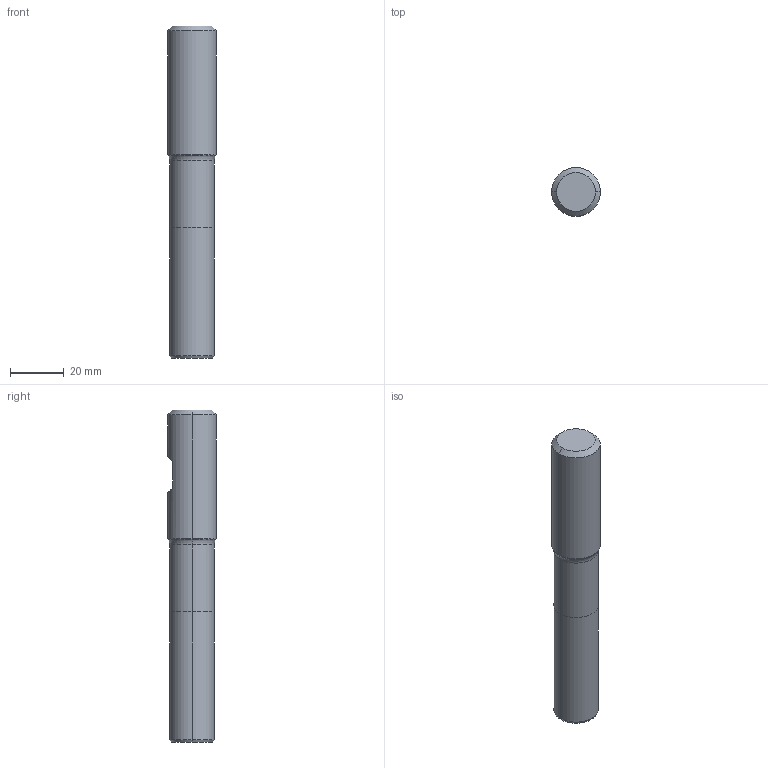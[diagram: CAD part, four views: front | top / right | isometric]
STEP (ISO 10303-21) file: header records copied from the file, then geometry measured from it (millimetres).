
FILE_DESCRIPTION (( 'STEP AP214' ), '1' );
FILE_NAME ('817.165.10_3D-model.step', '2022-02-24T00:21:35', ( '' ), ( '' ), 'SwSTEP 2.0', 'SolidWorks 2020', '' );
FILE_SCHEMA (( 'AUTOMOTIVE_DESIGN' ));
Length unit declared in the file: millimetre
Products named in the file (3): NOCUT-3D^Baugr9; CUT-3D^Baugr9; 817.165.10_3D-model
Assembly tree (2 placements, depth 2):
  817.165.10_3D-model
    CUT-3D^Baugr9
    NOCUT-3D^Baugr9
Bounding box: 18 x 18 x 123 mm (x, y, z)
Volume: 28020.2 mm3; surface area: 7427.5 mm2
Topology: 2 solids, 2 shells, 21 faces, 38 edges, 22 vertices
Faces by surface type: plane 7, cylinder 6, cone 6, torus 2
Entity records: 634 total; most frequent: DIRECTION 114, CARTESIAN_POINT 95, ORIENTED_EDGE 76, AXIS2_PLACEMENT_3D 49, EDGE_CURVE 38, VERTEX_POINT 22, EDGE_LOOP 22, FACE_OUTER_BOUND 21
